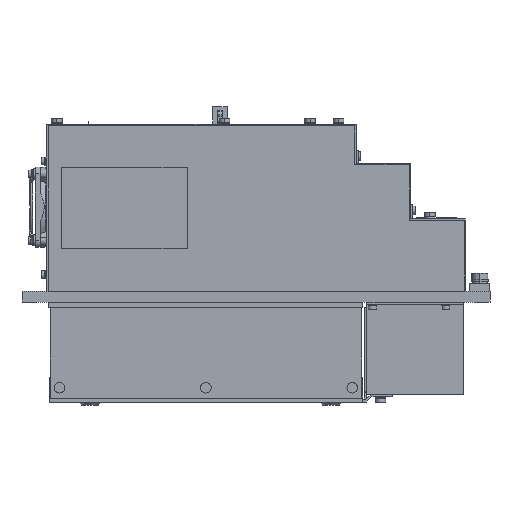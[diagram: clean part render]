
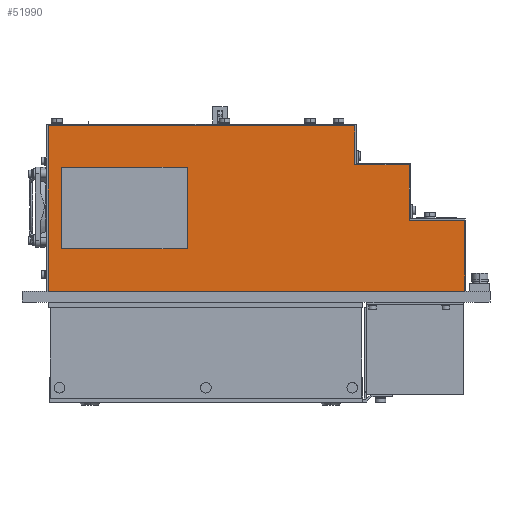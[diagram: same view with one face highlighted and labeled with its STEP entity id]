
A CAD part, left-side view. The second image highlights one B-rep face of the part: STEP entity #51990.
In plain terms, the highlighted planar face has unit normal (-1, 0, 0).
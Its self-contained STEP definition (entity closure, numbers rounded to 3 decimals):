
#12029 = EDGE_CURVE ( 'NONE', #12030, #12033, #49091, .T. ) ;
#12030 = VERTEX_POINT ( 'NONE', #49154 ) ;
#12033 = VERTEX_POINT ( 'NONE', #49153 ) ;
#12113 = EDGE_CURVE ( 'NONE', #12150, #12114, #49200, .T. ) ;
#12114 = VERTEX_POINT ( 'NONE', #49196 ) ;
#12129 = EDGE_CURVE ( 'NONE', #12114, #12030, #49253, .T. ) ;
#12148 = EDGE_CURVE ( 'NONE', #12033, #12150, #49235, .T. ) ;
#12150 = VERTEX_POINT ( 'NONE', #49231 ) ;
#17170 = ORIENTED_EDGE ( 'NONE', *, *, #12029, .F. ) ;
#18156 = ORIENTED_EDGE ( 'NONE', *, *, #12113, .F. ) ;
#18211 = ORIENTED_EDGE ( 'NONE', *, *, #12148, .F. ) ;
#19379 = ORIENTED_EDGE ( 'NONE', *, *, #12129, .F. ) ;
#21249 = EDGE_LOOP ( 'NONE', ( #19379, #18156, #18211, #17170 ) ) ;
#23128 = CARTESIAN_POINT ( 'NONE',  ( -12.5, -12.1, 8.2 ) ) ;
#23202 = AXIS2_PLACEMENT_3D ( 'NONE', #23345, #23343, #23341 ) ;
#23203 = PLANE ( 'NONE',  #23202 ) ;
#23206 = FACE_BOUND ( 'NONE', #21249, .T. ) ;
#23207 = FACE_OUTER_BOUND ( 'NONE', #51563, .T. ) ;
#23230 = CARTESIAN_POINT ( 'NONE',  ( -12.5, -241.3, 131.8 ) ) ;
#23233 = DIRECTION ( 'NONE',  ( 0., 0., 1. ) ) ;
#23234 = VECTOR ( 'NONE', #23233, 1000. ) ;
#23237 = CARTESIAN_POINT ( 'NONE',  ( -12.5, -12.1, 131.8 ) ) ;
#23238 = LINE ( 'NONE', #23237, #23234 ) ;
#23242 = DIRECTION ( 'NONE',  ( 0., -1., 0. ) ) ;
#23243 = VECTOR ( 'NONE', #23242, 1000. ) ;
#23245 = CARTESIAN_POINT ( 'NONE',  ( -12.5, -10.5, 131.8 ) ) ;
#23246 = LINE ( 'NONE', #23245, #23243 ) ;
#23249 = CARTESIAN_POINT ( 'NONE',  ( -12.5, -12.1, 131.8 ) ) ;
#23271 = DIRECTION ( 'NONE',  ( 0., 0., 1. ) ) ;
#23273 = VECTOR ( 'NONE', #23271, 1000. ) ;
#23274 = CARTESIAN_POINT ( 'NONE',  ( -12.5, -282.1, 61.1 ) ) ;
#23275 = LINE ( 'NONE', #23274, #23273 ) ;
#23280 = CARTESIAN_POINT ( 'NONE',  ( -12.5, -282.1, 102.8 ) ) ;
#23283 = DIRECTION ( 'NONE',  ( 0., 1., 0. ) ) ;
#23284 = VECTOR ( 'NONE', #23283, 1000. ) ;
#23285 = CARTESIAN_POINT ( 'NONE',  ( -12.5, -282.1, 102.8 ) ) ;
#23295 = LINE ( 'NONE', #23285, #23284 ) ;
#23317 = CARTESIAN_POINT ( 'NONE',  ( -12.5, -241.3, 102.8 ) ) ;
#23341 = DIRECTION ( 'NONE',  ( 0., 1., 0. ) ) ;
#23343 = DIRECTION ( 'NONE',  ( 1., 0., 0. ) ) ;
#23345 = CARTESIAN_POINT ( 'NONE',  ( -12.5, -10.5, 474.066 ) ) ;
#23381 = CARTESIAN_POINT ( 'NONE',  ( -12.5, -323.5, 61.1 ) ) ;
#23406 = CARTESIAN_POINT ( 'NONE',  ( -12.5, -282.1, 61.1 ) ) ;
#23407 = DIRECTION ( 'NONE',  ( 0., 1., 0. ) ) ;
#23409 = VECTOR ( 'NONE', #23407, 1000. ) ;
#23410 = CARTESIAN_POINT ( 'NONE',  ( -12.5, -324.5, 61.1 ) ) ;
#23411 = LINE ( 'NONE', #23410, #23409 ) ;
#23807 = CARTESIAN_POINT ( 'NONE',  ( -12.5, -323.5, 8.2 ) ) ;
#23809 = DIRECTION ( 'NONE',  ( 0., 0., 1. ) ) ;
#23810 = VECTOR ( 'NONE', #23809, 1000. ) ;
#23811 = CARTESIAN_POINT ( 'NONE',  ( -12.5, -323.5, 8. ) ) ;
#23813 = LINE ( 'NONE', #23811, #23810 ) ;
#23896 = DIRECTION ( 'NONE',  ( 0., 1., 0. ) ) ;
#23897 = VECTOR ( 'NONE', #23896, 1000. ) ;
#23899 = CARTESIAN_POINT ( 'NONE',  ( -12.5, -10.5, 8.2 ) ) ;
#23900 = LINE ( 'NONE', #23899, #23897 ) ;
#33548 = EDGE_CURVE ( 'NONE', #53166, #51690, #73406, .T. ) ;
#40900 = ORIENTED_EDGE ( 'NONE', *, *, #81459, .F. ) ;
#49090 = CARTESIAN_POINT ( 'NONE',  ( -12.5, -116., 40. ) ) ;
#49091 = LINE ( 'NONE', #49090, #49156 ) ;
#49153 = CARTESIAN_POINT ( 'NONE',  ( -12.5, -116., 101. ) ) ;
#49154 = CARTESIAN_POINT ( 'NONE',  ( -12.5, -116., 40. ) ) ;
#49155 = DIRECTION ( 'NONE',  ( 0., 0., 1. ) ) ;
#49156 = VECTOR ( 'NONE', #49155, 1000. ) ;
#49196 = CARTESIAN_POINT ( 'NONE',  ( -12.5, -22., 40. ) ) ;
#49197 = DIRECTION ( 'NONE',  ( 0., 0., -1. ) ) ;
#49198 = VECTOR ( 'NONE', #49197, 1000. ) ;
#49199 = CARTESIAN_POINT ( 'NONE',  ( -12.5, -22., 40. ) ) ;
#49200 = LINE ( 'NONE', #49199, #49198 ) ;
#49231 = CARTESIAN_POINT ( 'NONE',  ( -12.5, -22., 101. ) ) ;
#49232 = DIRECTION ( 'NONE',  ( 0., 1., 0. ) ) ;
#49233 = VECTOR ( 'NONE', #49232, 1000. ) ;
#49234 = CARTESIAN_POINT ( 'NONE',  ( -12.5, -22., 101. ) ) ;
#49235 = LINE ( 'NONE', #49234, #49233 ) ;
#49250 = DIRECTION ( 'NONE',  ( 0., -1., 0. ) ) ;
#49251 = VECTOR ( 'NONE', #49250, 1000. ) ;
#49252 = CARTESIAN_POINT ( 'NONE',  ( -12.5, -22., 40. ) ) ;
#49253 = LINE ( 'NONE', #49252, #49251 ) ;
#51248 = VERTEX_POINT ( 'NONE', #23128 ) ;
#51543 = ORIENTED_EDGE ( 'NONE', *, *, #51601, .F. ) ;
#51563 = EDGE_LOOP ( 'NONE', ( #51543, #51764, #40900, #81443, #56836, #56530, #53401, #52205 ) ) ;
#51584 = VERTEX_POINT ( 'NONE', #23249 ) ;
#51601 = EDGE_CURVE ( 'NONE', #51584, #51690, #23246, .T. ) ;
#51653 = EDGE_CURVE ( 'NONE', #51248, #51584, #23238, .T. ) ;
#51690 = VERTEX_POINT ( 'NONE', #23230 ) ;
#51764 = ORIENTED_EDGE ( 'NONE', *, *, #51653, .F. ) ;
#51990 = ADVANCED_FACE ( 'NONE', ( #23207, #23206 ), #23203, .F. ) ;
#52205 = ORIENTED_EDGE ( 'NONE', *, *, #33548, .T. ) ;
#53166 = VERTEX_POINT ( 'NONE', #23317 ) ;
#53401 = ORIENTED_EDGE ( 'NONE', *, *, #54459, .T. ) ;
#54459 = EDGE_CURVE ( 'NONE', #54709, #53166, #23295, .T. ) ;
#54709 = VERTEX_POINT ( 'NONE', #23280 ) ;
#56467 = EDGE_CURVE ( 'NONE', #56861, #54709, #23275, .T. ) ;
#56530 = ORIENTED_EDGE ( 'NONE', *, *, #56467, .T. ) ;
#56817 = EDGE_CURVE ( 'NONE', #57053, #56861, #23411, .T. ) ;
#56836 = ORIENTED_EDGE ( 'NONE', *, *, #56817, .T. ) ;
#56861 = VERTEX_POINT ( 'NONE', #23406 ) ;
#57053 = VERTEX_POINT ( 'NONE', #23381 ) ;
#73403 = DIRECTION ( 'NONE',  ( 0., 0., 1. ) ) ;
#73404 = VECTOR ( 'NONE', #73403, 1000. ) ;
#73405 = CARTESIAN_POINT ( 'NONE',  ( -12.5, -241.3, 102.8 ) ) ;
#73406 = LINE ( 'NONE', #73405, #73404 ) ;
#81443 = ORIENTED_EDGE ( 'NONE', *, *, #81444, .T. ) ;
#81444 = EDGE_CURVE ( 'NONE', #81445, #57053, #23813, .T. ) ;
#81445 = VERTEX_POINT ( 'NONE', #23807 ) ;
#81459 = EDGE_CURVE ( 'NONE', #81445, #51248, #23900, .T. ) ;
